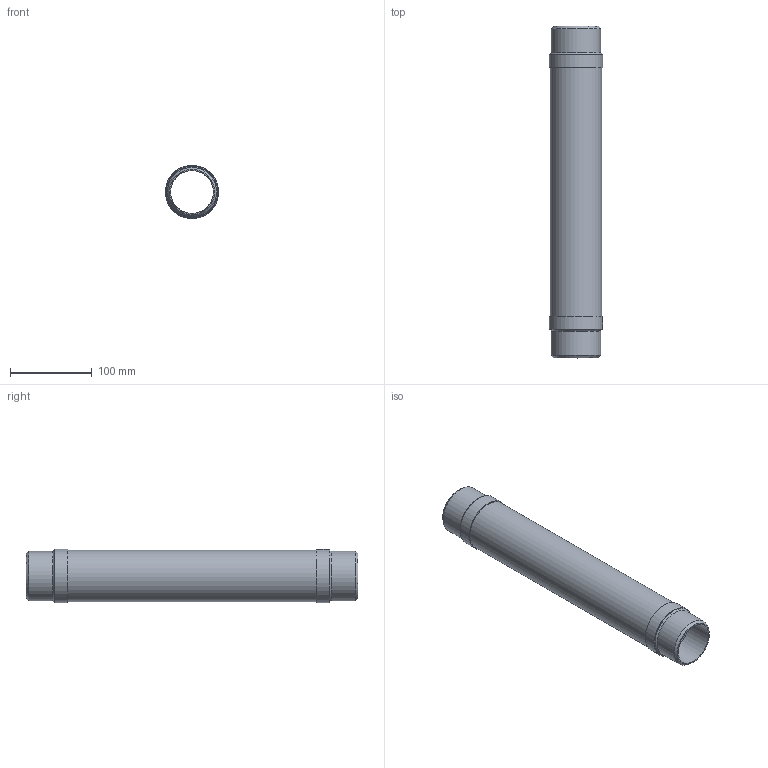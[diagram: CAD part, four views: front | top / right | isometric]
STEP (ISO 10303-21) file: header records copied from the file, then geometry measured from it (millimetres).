
FILE_DESCRIPTION(/* description */ (''),/* implementation_level */ '2;1');
FILE_NAME(/* name */ 'C:\001_Work\Designs\CSAWN\CSAWN-2x16.stp',/* time_stamp */ '2016-06-04T17:37:53-04:00',/* author */ ('rramoutar'),/* organization */ ('Mason Industries Inc.'),/* preprocessor_version */ 'ST-DEVELOPER v15.6',/* originating_system */ 'Autodesk Inventor 2015',/* authorisation */ '');
FILE_SCHEMA (('CONFIG_CONTROL_DESIGN'));
Length unit declared in the file: inch
Products named in the file (1): CSAWN-2x16
Bounding box: 65.12 x 406.4 x 65.12 mm (x, y, z)
Volume: 82544.8 mm3; surface area: 174081.4 mm2
Topology: 5 solids, 5 shells, 24 faces, 40 edges, 26 vertices
Faces by surface type: cylinder 10, plane 10, cone 4
Full cylindrical faces by diameter (mm): 52.502 x2, 60.325 x2, 61.976 x1, 62.789 x3, 65.17 x2
Entity records: 564 total; most frequent: DIRECTION 98, CARTESIAN_POINT 73, AXIS2_PLACEMENT_3D 49, EDGE_LOOP 48, ORIENTED_EDGE 48, STYLED_ITEM 29, FACE_BOUND 24, FACE_OUTER_BOUND 24
